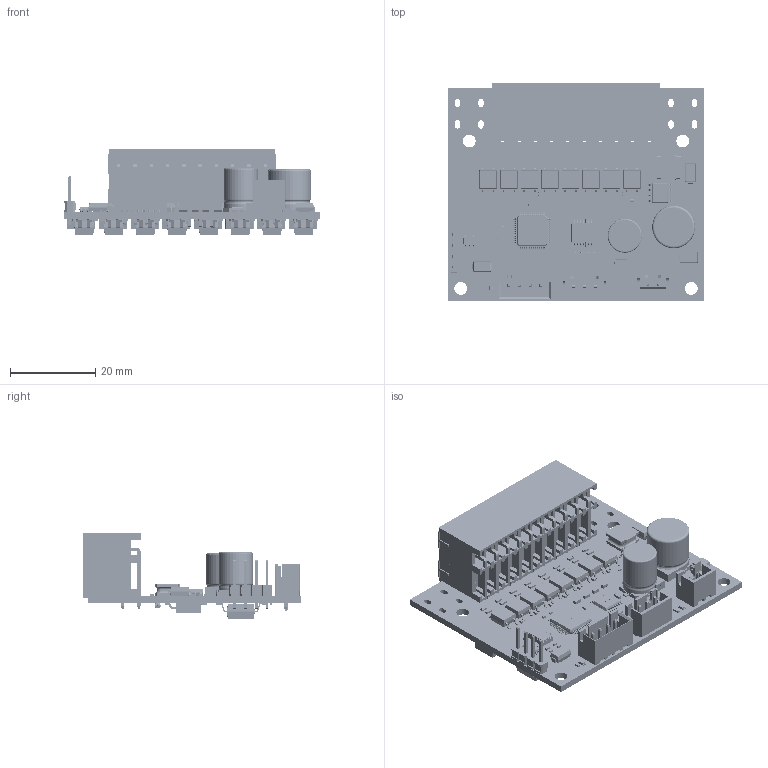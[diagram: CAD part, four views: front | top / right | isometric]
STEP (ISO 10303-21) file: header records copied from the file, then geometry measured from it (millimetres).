
FILE_DESCRIPTION(('Designed by EasyEDA Pro'),'2;1');
FILE_NAME('Open CASCADE Shape Model','2024-04-10T19:33:45',('Author'),( 'Open CASCADE'),'Open CASCADE STEP processor 7.6','Open CASCADE 7.6' ,'Unknown');
FILE_SCHEMA(('AUTOMOTIVE_DESIGN { 1 0 10303 214 1 1 1 1 }'));
Length unit declared in the file: millimetre
Products named in the file (185): PCBModel; COMPOUND; R3; R0402; SOLID; R1; R4; R6; R5; R7; R24; R10; R30; R33; R40; R47; R52; R11; R17; R18; R23; R29; R39; R46; R51; R34; R2; C10; C0402; C9; C2; C3; C4; C5; C7; C8; C6; C1; C11; LED2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
Assembly tree (283 placements, depth 4):
  PCBModel
    COMPOUND
    R3
      R0402
        SOLID
    R1
      R0402
        SOLID
    R4
      R0402
        SOLID
    R6
      R0402
        SOLID
    R5
      R0402
        SOLID
    R7
      R0402
        SOLID
    R24
      R0402
        SOLID
    R10
      R0402
        SOLID
    R30
      R0402
        SOLID
    R33
      R0402
        SOLID
    R40
      R0402
        SOLID
    R47
      R0402
        SOLID
    R52
      R0402
        SOLID
    R11
      R0402
        SOLID
    R17
      R0402
        SOLID
    R18
      R0402
        SOLID
    R23
      R0402
        SOLID
    R29
      R0402
        SOLID
    R39
      R0402
        SOLID
    R46
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Bounding box: 59.97 x 51.1 x 20.17 mm (x, y, z)
Volume: 12765.9 mm3; surface area: 22610.5 mm2
Topology: 457 solids, 457 shells, 47852 faces, 124227 edges, 79533 vertices
Faces by surface type: plane 27237, bspline 13501, cylinder 5165, sphere 1101, torus 808, cone 40
Full cylindrical faces by diameter (mm): 1 x3, 1.1 x8, 1.4 x20, 3 x4
Entity records: 643720 total; most frequent: CARTESIAN_POINT 152146, ORIENTED_EDGE 78106, DIRECTION 62509, EDGE_CURVE 39053, LINE 26109, VECTOR 26109, VERTEX_POINT 24525, AXIS2_PLACEMENT_3D 18200
